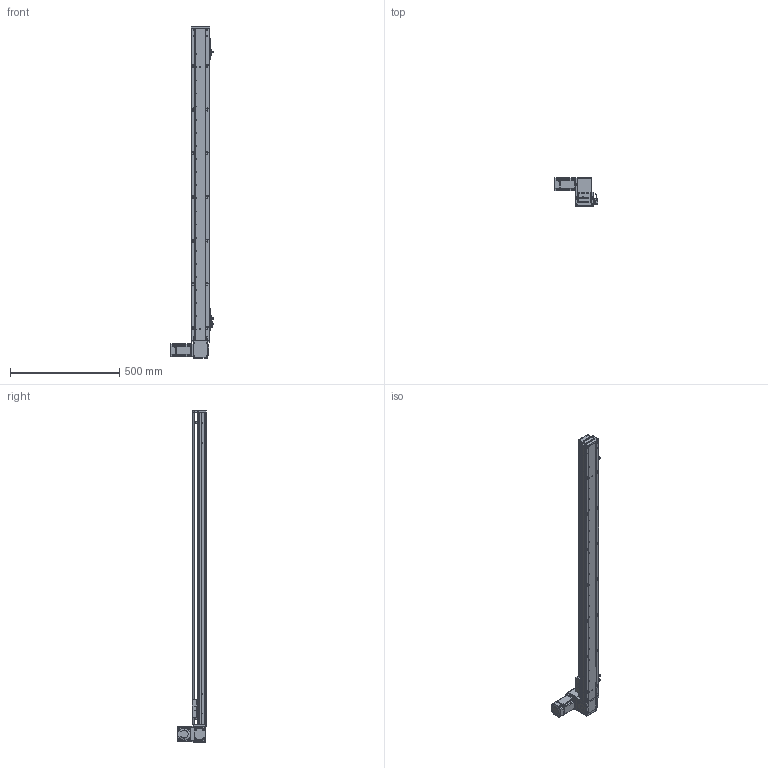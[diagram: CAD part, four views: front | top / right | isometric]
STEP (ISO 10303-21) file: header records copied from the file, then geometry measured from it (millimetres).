
FILE_DESCRIPTION (( 'STEP AP203' ), '1' );
FILE_NAME ('RY80-T-300-UL.SLDASM_1250.step', '2021-03-01T02:17:36', ( '盈信电脑' ), ( '东莞市道滘镇水果街19号' ), 'SwSTEP 2.0', 'SolidWorks 2012', '' );
FILE_SCHEMA (( 'CONFIG_CONTROL_DESIGN' ));
Length unit declared in the file: millimetre
Products named in the file (19): RY80-T-300-UL.SLDASM_1250; RY80-T-上下折同步轮盖板; RY80-T-M4蹟翐2; RY80-T肮祭謫奻殏俋欶; 1; RY80-T萇儂假蚾啣; 滅袉蝶18-10; RY80-T翋肮祭謫裔啣; RY80-T粣創揤踡輸; RY80-T肮祭湍揤輸2; RY80-T肮祭湍揤輸1; RY80-T-翋肮祭謫釱; RY80俋离覜茼え; 覜茼ん672; RY80-T綴裔啣; 672嫖萇羲壽假蚾釱; RY80-T-300-UL倰第奻裔啣_1250; RY80-T肮祭謫臏賑輸; RY80-T-300-UL倰第菁釱_1250
Assembly tree (24 placements, depth 2):
  RY80-T-300-UL.SLDASM_1250
    RY80-T-300-UL倰第菁釱_1250
    RY80-T肮祭謫臏賑輸
    RY80-T-300-UL倰第奻裔啣_1250
    RY80-T綴裔啣
    672嫖萇羲壽假蚾釱  x2
    覜茼ん672  x3
    RY80俋离覜茼え
    RY80-T-翋肮祭謫釱
    RY80-T肮祭湍揤輸1
    RY80-T肮祭湍揤輸2
    RY80-T萇儂假蚾啣
    RY80-T粣創揤踡輸  x2
    滅袉蝶18-10  x2
    RY80-T翋肮祭謫裔啣
    1
    RY80-T肮祭謫奻殏俋欶
    RY80-T-M4蹟翐2  x2
    RY80-T-上下折同步轮盖板
Bounding box: 198.7 x 130.5 x 1520 mm (x, y, z)
Volume: 2519409.4 mm3; surface area: 1061557.8 mm2
Topology: 24 solids, 24 shells, 2517 faces, 6926 edges, 4497 vertices
Faces by surface type: plane 1346, cylinder 966, cone 149, bspline 56
Entity records: 78615 total; most frequent: CARTESIAN_POINT 18990, ORIENTED_EDGE 12236, DIRECTION 11528, EDGE_CURVE 6118, VERTEX_POINT 4018, AXIS2_PLACEMENT_3D 3880, VECTOR 3768, LINE 3768
